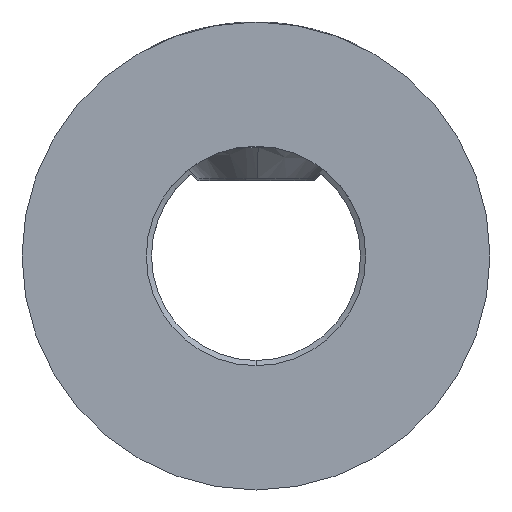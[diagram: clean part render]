
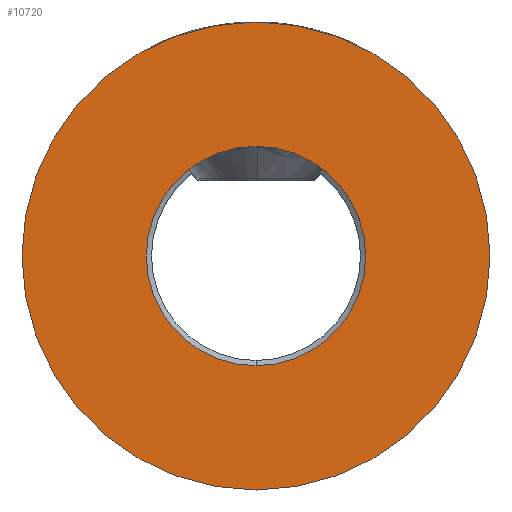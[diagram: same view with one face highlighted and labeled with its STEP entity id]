
A CAD part, front view. The second image highlights one B-rep face of the part: STEP entity #10720.
In plain terms, the highlighted planar face has unit normal (0, -1, 0).
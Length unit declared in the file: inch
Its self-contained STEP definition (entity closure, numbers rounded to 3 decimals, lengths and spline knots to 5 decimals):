
#771 = CARTESIAN_POINT ( 'NONE',  ( 0., 0., 0. ) ) ;
#1008 = EDGE_CURVE ( 'NONE', #8835, #8335, #5142, .T. ) ;
#1178 = DIRECTION ( 'NONE',  ( 0., 0., 1. ) ) ;
#2246 = CIRCLE ( 'NONE', #12077, 0.09843 ) ;
#2256 = AXIS2_PLACEMENT_3D ( 'NONE', #8184, #4170, #1178 ) ;
#2394 = ORIENTED_EDGE ( 'NONE', *, *, #6802, .F. ) ;
#2730 = FACE_BOUND ( 'NONE', #6128, .T. ) ;
#2942 = DIRECTION ( 'NONE',  ( 0., 1., 0. ) ) ;
#3344 = CARTESIAN_POINT ( 'NONE',  ( 0., 0., -0.09843 ) ) ;
#4161 = CARTESIAN_POINT ( 'NONE',  ( 0., 0., 0. ) ) ;
#4170 = DIRECTION ( 'NONE',  ( 0., 1., 0. ) ) ;
#4526 = CARTESIAN_POINT ( 'NONE',  ( 0., 0., 0.09843 ) ) ;
#5142 = CIRCLE ( 'NONE', #2256, 0.21 ) ;
#5243 = DIRECTION ( 'NONE',  ( 0., 1., 0. ) ) ;
#5472 = FACE_OUTER_BOUND ( 'NONE', #9631, .T. ) ;
#5601 = CARTESIAN_POINT ( 'NONE',  ( 0., 0., -0.21 ) ) ;
#5786 = DIRECTION ( 'NONE',  ( 0., 0., -1. ) ) ;
#5815 = CIRCLE ( 'NONE', #6115, 0.21 ) ;
#6074 = DIRECTION ( 'NONE',  ( 0., 0., -1. ) ) ;
#6115 = AXIS2_PLACEMENT_3D ( 'NONE', #771, #2942, #12081 ) ;
#6128 = EDGE_LOOP ( 'NONE', ( #2394, #10637 ) ) ;
#6802 = EDGE_CURVE ( 'NONE', #12860, #8410, #11448, .T. ) ;
#7017 = DIRECTION ( 'NONE',  ( 0., -1., 0. ) ) ;
#7284 = ORIENTED_EDGE ( 'NONE', *, *, #7836, .F. ) ;
#7767 = AXIS2_PLACEMENT_3D ( 'NONE', #4161, #5243, #9333 ) ;
#7836 = EDGE_CURVE ( 'NONE', #8335, #8835, #5815, .T. ) ;
#7896 = ORIENTED_EDGE ( 'NONE', *, *, #1008, .F. ) ;
#8062 = CARTESIAN_POINT ( 'NONE',  ( 0., 0., 0. ) ) ;
#8184 = CARTESIAN_POINT ( 'NONE',  ( 0., 0., 0. ) ) ;
#8335 = VERTEX_POINT ( 'NONE', #5601 ) ;
#8357 = PLANE ( 'NONE',  #7767 ) ;
#8410 = VERTEX_POINT ( 'NONE', #4526 ) ;
#8439 = AXIS2_PLACEMENT_3D ( 'NONE', #8062, #7017, #6074 ) ;
#8835 = VERTEX_POINT ( 'NONE', #13349 ) ;
#8841 = DIRECTION ( 'NONE',  ( 0., -1., 0. ) ) ;
#9333 = DIRECTION ( 'NONE',  ( 0., 0., 1. ) ) ;
#9631 = EDGE_LOOP ( 'NONE', ( #7284, #7896 ) ) ;
#10637 = ORIENTED_EDGE ( 'NONE', *, *, #11697, .F. ) ;
#10720 = ADVANCED_FACE ( 'NONE', ( #2730, #5472 ), #8357, .F. ) ;
#11448 = CIRCLE ( 'NONE', #8439, 0.09843 ) ;
#11697 = EDGE_CURVE ( 'NONE', #8410, #12860, #2246, .T. ) ;
#12077 = AXIS2_PLACEMENT_3D ( 'NONE', #12938, #8841, #5786 ) ;
#12081 = DIRECTION ( 'NONE',  ( 0., 0., 1. ) ) ;
#12860 = VERTEX_POINT ( 'NONE', #3344 ) ;
#12938 = CARTESIAN_POINT ( 'NONE',  ( 0., 0., 0. ) ) ;
#13349 = CARTESIAN_POINT ( 'NONE',  ( 0., 0., 0.21 ) ) ;
